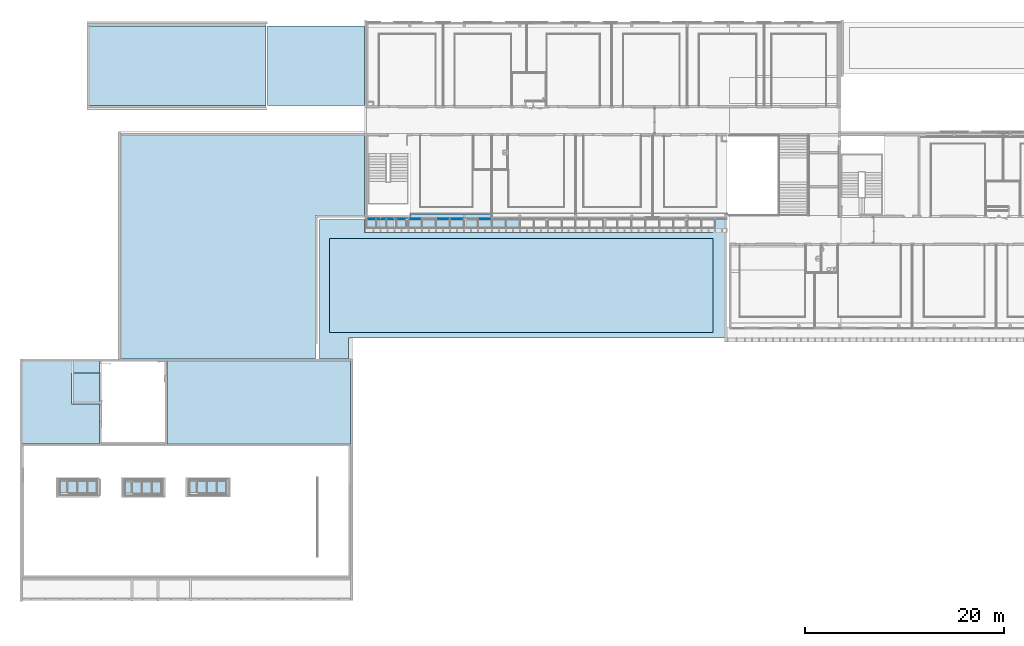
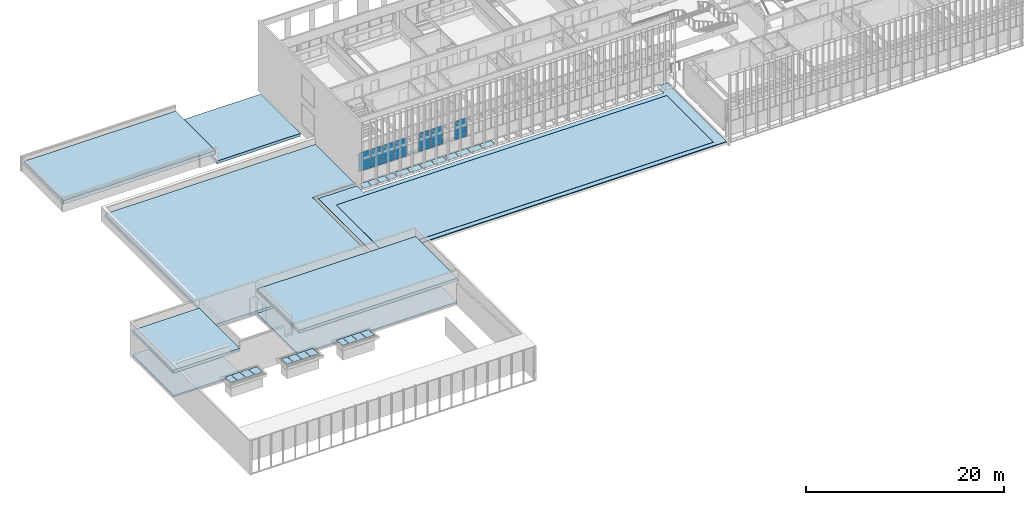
# One storey, part 29 of 106: 31 plates, 10 slabs, 1 opening, 12 elements without a shape of their own.
"""IFC2X3 building model written with IfcOpenShell, lengths in centimetres."""

from ifc_helpers import new_model, entity, si_unit, converted_unit, derived_unit, direction, frame, frame_2d, origin, origin_2d_with_axis, place, context, subcontext, project, spatial, polyline, rectangle, outline, extrude, source, transform, mapped, material, layer, layer_set, layer_usage, type_object, type_shapes, element, aggregate, save


model = new_model("IFC2X3")

# Units and contexts
model_context = context("Model", 3, precision=0.001, world=origin(), true_north=direction((6.12303176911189e-17, 1.0)))
body_context = subcontext(model_context, "Body", "Model", "MODEL_VIEW")
ifc_project = project(units=[si_unit("LENGTHUNIT", "METRE", prefix="CENTI"), si_unit("AREAUNIT", "SQUARE_METRE"), si_unit("VOLUMEUNIT", "CUBIC_METRE"), converted_unit("PLANEANGLEUNIT", "DEGREE", entity("IfcRatioMeasure", 0.0174532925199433), si_unit("PLANEANGLEUNIT", "RADIAN"), dimensions=[0, 0, 0, 0, 0, 0, 0]), si_unit("MASSUNIT", "GRAM", prefix="KILO"), derived_unit("MASSDENSITYUNIT", [(si_unit("MASSUNIT", "GRAM", prefix="KILO"), 1), (si_unit("LENGTHUNIT", "METRE"), -3)]), si_unit("TIMEUNIT", "SECOND"), si_unit("FREQUENCYUNIT", "HERTZ"), si_unit("THERMODYNAMICTEMPERATUREUNIT", "DEGREE_CELSIUS"), derived_unit("THERMALTRANSMITTANCEUNIT", [(si_unit("MASSUNIT", "GRAM", prefix="KILO"), 1), (si_unit("THERMODYNAMICTEMPERATUREUNIT", "KELVIN"), -1), (si_unit("TIMEUNIT", "SECOND"), -3)]), derived_unit("VOLUMETRICFLOWRATEUNIT", [(si_unit("LENGTHUNIT", "METRE"), 3), (si_unit("TIMEUNIT", "SECOND"), -1)]), si_unit("ELECTRICCURRENTUNIT", "AMPERE"), si_unit("ELECTRICVOLTAGEUNIT", "VOLT"), si_unit("POWERUNIT", "WATT"), si_unit("FORCEUNIT", "NEWTON", prefix="KILO"), si_unit("ILLUMINANCEUNIT", "LUX"), si_unit("LUMINOUSFLUXUNIT", "LUMEN"), si_unit("LUMINOUSINTENSITYUNIT", "CANDELA"), derived_unit("USERDEFINED", [(si_unit("MASSUNIT", "GRAM", prefix="KILO"), -1), (si_unit("LENGTHUNIT", "METRE"), -2), (si_unit("TIMEUNIT", "SECOND"), 3), (si_unit("LUMINOUSFLUXUNIT", "LUMEN"), 1)]), derived_unit("LINEARVELOCITYUNIT", [(si_unit("LENGTHUNIT", "METRE"), 1), (si_unit("TIMEUNIT", "SECOND"), -1)]), si_unit("PRESSUREUNIT", "PASCAL"), derived_unit("USERDEFINED", [(si_unit("LENGTHUNIT", "METRE"), -2), (si_unit("MASSUNIT", "GRAM", prefix="KILO"), 1), (si_unit("TIMEUNIT", "SECOND"), -2)])], contexts=[model_context])

# Site, building, storey
site_placement = place(None, frame((-2781.94577612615, 7442.24238424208, 0.0)))
site = spatial("IfcSite", under=ifc_project, at=site_placement, Name="Default", CompositionType="ELEMENT")
building_placement = place(site_placement, origin())
building = spatial("IfcBuilding", under=site, at=building_placement, CompositionType="ELEMENT")
storey_placement = place(building_placement, frame((0.0, 0.0, 422.0)))
storey = spatial("IfcBuildingStorey", under=building, at=storey_placement, Name="Toiture - Cuisine", CompositionType="ELEMENT", Elevation=421.999999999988)

# Roof, plates
curtain_wall_type_1 = type_object("IfcCurtainWallType", Name="Vitres inclinées:Toit en verre 1 m x 2 m", PredefinedType="NOTDEFINED")
roof_1_placement = place(building_placement, origin())
roof_1 = element("IfcRoof", 1, at=roof_1_placement, inside=storey, type_object=curtain_wall_type_1, Name="Vitres inclinées:Toit en verre 1 m x 2 m", ObjectType="Vitres inclinées:Toit en verre 1 m x 2 m", ShapeType="NOTDEFINED")
ifc_material_1 = material(Name="Verre")
ifc_layer_1 = layer(ifc_material_1, 4.0)
ifc_layer_set_1 = layer_set([ifc_layer_1], Name="Panneau système:Vitré")
ifc_layer_usage_1 = layer_usage(ifc_layer_set_1, "AXIS3", "POSITIVE", 0.0)
plate_type_1 = type_object("IfcPlateType", Name="Vitré", PredefinedType="CURTAIN_PANEL", material=ifc_layer_set_1)
shared_shape_1 = source(origin(), body_context, "Body", "SweptSolid", [
    extrude(rectangle(XDim=4.0, YDim=92.5000000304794, at=origin_2d_with_axis()), frame((0.0, 0.0, 0.0), z_axis=(0.0, 0.0, 1.0), x_axis=(0.0, 1.0, 0.0)), (0.0, 0.0, 1.0), 80.1235111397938),
])
type_shapes(plate_type_1, [shared_shape_1])
plate_1_placement = place(roof_1_placement, frame((-8358.24987765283, -2035.34756574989, 358.254827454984), z_axis=(0.0, 0.998629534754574, 0.0523359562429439), x_axis=(1.0, 0.0, 0.0)))
plate_1 = element("IfcPlate", 2, at=plate_1_placement, type_object=plate_type_1, material=ifc_layer_usage_1, Name="Panneau système:Vitré", ObjectType="Panneau système:Vitré", context=body_context, shape_type="MappedRepresentation", body=[
    mapped(shared_shape_1, transform((0.0, 0.0, 0.0), scale=1.0)),
])
ifc_layer_usage_2 = layer_usage(ifc_layer_set_1, "AXIS3", "POSITIVE", 0.0)
plate_type_2 = type_object("IfcPlateType", Name="Vitré", PredefinedType="CURTAIN_PANEL", material=ifc_layer_set_1)
shared_shape_2 = source(origin(), body_context, "Body", "SweptSolid", [
    extrude(rectangle(XDim=4.0, YDim=95.0000000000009, at=origin_2d_with_axis()), frame((0.0, 0.0, 0.0), z_axis=(0.0, 0.0, 1.0), x_axis=(0.0, 1.0, 0.0)), (0.0, 0.0, 1.0), 80.1235111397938),
])
type_shapes(plate_type_2, [shared_shape_2])
plate_2_placement = place(roof_1_placement, frame((-8259.49987763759, -2035.34756574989, 358.254827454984), z_axis=(0.0, 0.998629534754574, 0.0523359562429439), x_axis=(1.0, 0.0, 0.0)))
plate_2 = element("IfcPlate", 3, at=plate_2_placement, type_object=plate_type_2, material=ifc_layer_usage_2, Name="Panneau système:Vitré", ObjectType="Panneau système:Vitré", context=body_context, shape_type="MappedRepresentation", body=[
    mapped(shared_shape_2, transform((0.0, 0.0, 0.0), scale=1.0)),
])
ifc_layer_usage_3 = layer_usage(ifc_layer_set_1, "AXIS3", "POSITIVE", 0.0)
plate_3_placement = place(roof_1_placement, frame((-8159.49987763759, -2035.34756574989, 358.254827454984), z_axis=(0.0, 0.998629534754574, 0.0523359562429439), x_axis=(1.0, 0.0, 0.0)))
plate_3 = element("IfcPlate", 4, at=plate_3_placement, type_object=plate_type_2, material=ifc_layer_usage_3, Name="Panneau système:Vitré", ObjectType="Panneau système:Vitré", context=body_context, shape_type="MappedRepresentation", body=[
    mapped(shared_shape_2, transform((0.0, 0.0, 0.0), scale=1.0)),
])
ifc_layer_usage_4 = layer_usage(ifc_layer_set_1, "AXIS3", "POSITIVE", 0.0)
plate_4_placement = place(roof_1_placement, frame((-8059.49987763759, -2035.34756574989, 358.254827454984), z_axis=(0.0, 0.998629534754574, 0.0523359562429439), x_axis=(1.0, 0.0, 0.0)))
plate_4 = element("IfcPlate", 5, at=plate_4_placement, type_object=plate_type_2, material=ifc_layer_usage_4, Name="Panneau système:Vitré", ObjectType="Panneau système:Vitré", context=body_context, shape_type="MappedRepresentation", body=[
    mapped(shared_shape_2, transform((0.0, 0.0, 0.0), scale=1.0)),
])
ifc_layer_usage_5 = layer_usage(ifc_layer_set_1, "AXIS3", "POSITIVE", 0.0)
plate_type_3 = type_object("IfcPlateType", Name="Vitré", PredefinedType="CURTAIN_PANEL", material=ifc_layer_set_1)
shared_shape_3 = source(origin(), body_context, "Body", "SweptSolid", [
    extrude(rectangle(XDim=4.0, YDim=135.0, at=origin_2d_with_axis()), frame((0.0, 0.0, 0.0), z_axis=(0.0, 0.0, 1.0), x_axis=(0.0, 1.0, 0.0)), (0.0, 0.0, 1.0), 80.1235111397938),
])
type_shapes(plate_type_3, [shared_shape_3])
plate_5_placement = place(roof_1_placement, frame((-7919.49987763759, -2035.34756574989, 358.254827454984), z_axis=(0.0, 0.998629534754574, 0.0523359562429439), x_axis=(1.0, 0.0, 0.0)))
plate_5 = element("IfcPlate", 6, at=plate_5_placement, type_object=plate_type_3, material=ifc_layer_usage_5, Name="Panneau système:Vitré", ObjectType="Panneau système:Vitré", context=body_context, shape_type="MappedRepresentation", body=[
    mapped(shared_shape_3, transform((0.0, 0.0, 0.0), scale=1.0)),
])
ifc_layer_usage_6 = layer_usage(ifc_layer_set_1, "AXIS3", "POSITIVE", 0.0)
plate_6_placement = place(roof_1_placement, frame((-7779.4998776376, -2035.34756574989, 358.254827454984), z_axis=(0.0, 0.998629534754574, 0.0523359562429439), x_axis=(1.0, 0.0, 0.0)))
plate_6 = element("IfcPlate", 7, at=plate_6_placement, type_object=plate_type_3, material=ifc_layer_usage_6, Name="Panneau système:Vitré", ObjectType="Panneau système:Vitré", context=body_context, shape_type="MappedRepresentation", body=[
    mapped(shared_shape_3, transform((0.0, 0.0, 0.0), scale=1.0)),
])
ifc_layer_usage_7 = layer_usage(ifc_layer_set_1, "AXIS3", "POSITIVE", 0.0)
plate_7_placement = place(roof_1_placement, frame((-7639.49987763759, -2035.34756574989, 358.254827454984), z_axis=(0.0, 0.998629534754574, 0.0523359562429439), x_axis=(1.0, 0.0, 0.0)))
plate_7 = element("IfcPlate", 8, at=plate_7_placement, type_object=plate_type_3, material=ifc_layer_usage_7, Name="Panneau système:Vitré", ObjectType="Panneau système:Vitré", context=body_context, shape_type="MappedRepresentation", body=[
    mapped(shared_shape_3, transform((0.0, 0.0, 0.0), scale=1.0)),
])
ifc_layer_usage_8 = layer_usage(ifc_layer_set_1, "AXIS3", "POSITIVE", 0.0)
plate_8_placement = place(roof_1_placement, frame((-7499.49987763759, -2035.34756574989, 358.254827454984), z_axis=(0.0, 0.998629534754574, 0.0523359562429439), x_axis=(1.0, 0.0, 0.0)))
plate_8 = element("IfcPlate", 9, at=plate_8_placement, type_object=plate_type_3, material=ifc_layer_usage_8, Name="Panneau système:Vitré", ObjectType="Panneau système:Vitré", context=body_context, shape_type="MappedRepresentation", body=[
    mapped(shared_shape_3, transform((0.0, 0.0, 0.0), scale=1.0)),
])
ifc_layer_usage_9 = layer_usage(ifc_layer_set_1, "AXIS3", "POSITIVE", 0.0)
plate_9_placement = place(roof_1_placement, frame((-7219.49987763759, -2035.34756574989, 358.254827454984), z_axis=(0.0, 0.998629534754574, 0.0523359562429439), x_axis=(1.0, 0.0, 0.0)))
plate_9 = element("IfcPlate", 10, at=plate_9_placement, type_object=plate_type_3, material=ifc_layer_usage_9, Name="Panneau système:Vitré", ObjectType="Panneau système:Vitré", context=body_context, shape_type="MappedRepresentation", body=[
    mapped(shared_shape_3, transform((0.0, 0.0, 0.0), scale=1.0)),
])
ifc_layer_usage_10 = layer_usage(ifc_layer_set_1, "AXIS3", "POSITIVE", 0.0)
plate_10_placement = place(roof_1_placement, frame((-7079.49987763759, -2035.34756574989, 358.254827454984), z_axis=(0.0, 0.998629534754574, 0.0523359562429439), x_axis=(1.0, 0.0, 0.0)))
plate_10 = element("IfcPlate", 11, at=plate_10_placement, type_object=plate_type_3, material=ifc_layer_usage_10, Name="Panneau système:Vitré", ObjectType="Panneau système:Vitré", context=body_context, shape_type="MappedRepresentation", body=[
    mapped(shared_shape_3, transform((0.0, 0.0, 0.0), scale=1.0)),
])
ifc_layer_usage_11 = layer_usage(ifc_layer_set_1, "AXIS3", "POSITIVE", 0.0)
plate_11_placement = place(roof_1_placement, frame((-6939.49987763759, -2035.34756574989, 358.254827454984), z_axis=(0.0, 0.998629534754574, 0.0523359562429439), x_axis=(1.0, 0.0, 0.0)))
plate_11 = element("IfcPlate", 12, at=plate_11_placement, type_object=plate_type_3, material=ifc_layer_usage_11, Name="Panneau système:Vitré", ObjectType="Panneau système:Vitré", context=body_context, shape_type="MappedRepresentation", body=[
    mapped(shared_shape_3, transform((0.0, 0.0, 0.0), scale=1.0)),
])
ifc_layer_usage_12 = layer_usage(ifc_layer_set_1, "AXIS3", "POSITIVE", 0.0)
plate_type_4 = type_object("IfcPlateType", Name="Vitré", PredefinedType="CURTAIN_PANEL", material=ifc_layer_set_1)
shared_shape_4 = source(origin(), body_context, "Body", "SweptSolid", [
    extrude(rectangle(XDim=4.0, YDim=117.5, at=origin_2d_with_axis()), frame((0.0, 0.0, 0.0), z_axis=(0.0, 0.0, 1.0), x_axis=(0.0, 1.0, 0.0)), (0.0, 0.0, 1.0), 80.1235111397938),
])
type_shapes(plate_type_4, [shared_shape_4])
plate_12_placement = place(roof_1_placement, frame((-7350.74987763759, -2035.34756574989, 358.254827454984), z_axis=(0.0, 0.998629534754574, 0.0523359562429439), x_axis=(1.0, 0.0, 0.0)))
plate_12 = element("IfcPlate", 13, at=plate_12_placement, type_object=plate_type_4, material=ifc_layer_usage_12, Name="Panneau système:Vitré", ObjectType="Panneau système:Vitré", context=body_context, shape_type="MappedRepresentation", body=[
    mapped(shared_shape_4, transform((0.0, 0.0, 0.0), scale=1.0)),
])
aggregate(roof_1, [plate_1, plate_2, plate_3, plate_4, plate_5, plate_6, plate_7, plate_8, plate_12, plate_9, plate_10, plate_11])

# Curtain wall, plates
curtain_wall_type_2 = type_object("IfcCurtainWallType", Name="Mur-rideau:07 - mur rideau trame 140 cm", PredefinedType="NOTDEFINED")
curtain_wall_placement = place(building_placement, origin())
curtain_wall = element("IfcCurtainWall", 14, at=curtain_wall_placement, inside=storey, type_object=curtain_wall_type_2, Name="Mur-rideau:07 - mur rideau trame 140 cm", ObjectType="Mur-rideau:07 - mur rideau trame 140 cm")
ifc_layer_usage_13 = layer_usage(ifc_layer_set_1, "AXIS3", "POSITIVE", 0.0)
plate_type_5 = type_object("IfcPlateType", Name="Vitré", PredefinedType="CURTAIN_PANEL", material=ifc_layer_set_1)
shared_shape_5 = source(origin(), body_context, "Body", "SweptSolid", [
    extrude(rectangle(XDim=4.0, YDim=135.01250003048, at=origin_2d_with_axis()), frame((0.0, 0.0, 0.0), z_axis=(0.0, 0.0, 1.0), x_axis=(0.0, 1.0, 0.0)), (0.0, 0.0, 1.0), 229.2625),
])
type_shapes(plate_type_5, [shared_shape_5])
plate_13_placement = place(curtain_wall_placement, frame((-8337.87487765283, -1946.27903364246, 509.61875)))
plate_13 = element("IfcPlate", 15, at=plate_13_placement, type_object=plate_type_5, material=ifc_layer_usage_13, Name="Panneau système:Vitré", ObjectType="Panneau système:Vitré", context=body_context, shape_type="MappedRepresentation", body=[
    mapped(shared_shape_5, transform((0.0, 0.0, 0.0), scale=1.0)),
])
ifc_layer_usage_14 = layer_usage(ifc_layer_set_1, "AXIS3", "POSITIVE", 0.0)
plate_type_6 = type_object("IfcPlateType", Name="Vitré", PredefinedType="CURTAIN_PANEL", material=ifc_layer_set_1)
shared_shape_6 = source(origin(), body_context, "Body", "SweptSolid", [
    extrude(rectangle(XDim=4.0, YDim=138.262499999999, at=origin_2d_with_axis()), frame((0.0, 0.0, 0.0), z_axis=(0.0, 0.0, 1.0), x_axis=(0.0, 1.0, 0.0)), (0.0, 0.0, 1.0), 229.2625),
])
type_shapes(plate_type_6, [shared_shape_6])
plate_14_placement = place(curtain_wall_placement, frame((-8199.49987763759, -1946.27903364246, 509.61875)))
plate_14 = element("IfcPlate", 16, at=plate_14_placement, type_object=plate_type_6, material=ifc_layer_usage_14, Name="Panneau système:Vitré", ObjectType="Panneau système:Vitré", context=body_context, shape_type="MappedRepresentation", body=[
    mapped(shared_shape_6, transform((0.0, 0.0, 0.0), scale=1.0)),
])
ifc_layer_usage_15 = layer_usage(ifc_layer_set_1, "AXIS3", "POSITIVE", 0.0)
plate_15_placement = place(curtain_wall_placement, frame((-8059.49987763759, -1946.27903364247, 509.61875)))
plate_15 = element("IfcPlate", 17, at=plate_15_placement, type_object=plate_type_6, material=ifc_layer_usage_15, Name="Panneau système:Vitré", ObjectType="Panneau système:Vitré", context=body_context, shape_type="MappedRepresentation", body=[
    mapped(shared_shape_6, transform((0.0, 0.0, 0.0), scale=1.0)),
])
ifc_layer_usage_16 = layer_usage(ifc_layer_set_1, "AXIS3", "POSITIVE", 0.0)
plate_16_placement = place(curtain_wall_placement, frame((-7919.49987763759, -1946.27903364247, 509.61875)))
plate_16 = element("IfcPlate", 18, at=plate_16_placement, type_object=plate_type_6, material=ifc_layer_usage_16, Name="Panneau système:Vitré", ObjectType="Panneau système:Vitré", context=body_context, shape_type="MappedRepresentation", body=[
    mapped(shared_shape_6, transform((0.0, 0.0, 0.0), scale=1.0)),
])
ifc_layer_usage_17 = layer_usage(ifc_layer_set_1, "AXIS3", "POSITIVE", 0.0)
plate_17_placement = place(curtain_wall_placement, frame((-7639.49987763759, -1946.27903364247, 509.61875)))
plate_17 = element("IfcPlate", 19, at=plate_17_placement, type_object=plate_type_6, material=ifc_layer_usage_17, Name="Panneau système:Vitré", ObjectType="Panneau système:Vitré", context=body_context, shape_type="MappedRepresentation", body=[
    mapped(shared_shape_6, transform((0.0, 0.0, 0.0), scale=1.0)),
])
ifc_layer_usage_18 = layer_usage(ifc_layer_set_1, "AXIS3", "POSITIVE", 0.0)
plate_18_placement = place(curtain_wall_placement, frame((-7499.49987763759, -1946.27903364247, 509.61875)))
plate_18 = element("IfcPlate", 20, at=plate_18_placement, type_object=plate_type_6, material=ifc_layer_usage_18, Name="Panneau système:Vitré", ObjectType="Panneau système:Vitré", context=body_context, shape_type="MappedRepresentation", body=[
    mapped(shared_shape_6, transform((0.0, 0.0, 0.0), scale=1.0)),
])
ifc_layer_usage_19 = layer_usage(ifc_layer_set_1, "AXIS3", "POSITIVE", 0.0)
plate_19_placement = place(curtain_wall_placement, frame((-7219.49987763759, -1946.27903364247, 509.61875)))
plate_19 = element("IfcPlate", 21, at=plate_19_placement, type_object=plate_type_6, material=ifc_layer_usage_19, Name="Panneau système:Vitré", ObjectType="Panneau système:Vitré", context=body_context, shape_type="MappedRepresentation", body=[
    mapped(shared_shape_6, transform((0.0, 0.0, 0.0), scale=1.0)),
])
aggregate(curtain_wall, [plate_13, plate_14, plate_15, plate_16, plate_17, plate_18, plate_19])

# Roof, plate
roof_2_placement = place(building_placement, origin())
roof_2 = element("IfcRoof", 22, at=roof_2_placement, inside=storey, type_object=curtain_wall_type_1, Name="Vitres inclinées:Toit en verre 1 m x 2 m", ObjectType="Vitres inclinées:Toit en verre 1 m x 2 m", ShapeType="NOTDEFINED")
ifc_layer_usage_20 = layer_usage(ifc_layer_set_1, "AXIS3", "POSITIVE", 0.0)
plate_type_7 = type_object("IfcPlateType", Name="Vitré", PredefinedType="CURTAIN_PANEL", material=ifc_layer_set_1)
shared_shape_7 = source(origin(), body_context, "Body", "SweptSolid", [
    extrude(rectangle(XDim=4.0, YDim=92.5000000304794, at=origin_2d_with_axis()), frame((0.0, 0.0, 0.0), z_axis=(0.0, 0.0, 1.0), x_axis=(0.0, 1.0, 0.0)), (0.0, 0.0, 1.0), 124.496974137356),
])
type_shapes(plate_type_7, [shared_shape_7])
plate_20_placement = place(roof_2_placement, frame((-11160.600574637, -4576.23124691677, 650.874957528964), z_axis=(0.0, -0.996194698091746, 0.0871557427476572), x_axis=(-1.0, 0.0, 0.0)))
plate_20 = element("IfcPlate", 23, at=plate_20_placement, type_object=plate_type_7, material=ifc_layer_usage_20, Name="Panneau système:Vitré", ObjectType="Panneau système:Vitré", context=body_context, shape_type="MappedRepresentation", body=[
    mapped(shared_shape_7, transform((0.0, 0.0, 0.0), scale=1.0)),
])

roof_3_placement = place(building_placement, origin())
roof_3 = element("IfcRoof", 24, at=roof_3_placement, inside=storey, type_object=curtain_wall_type_1, Name="Vitres inclinées:Toit en verre 1 m x 2 m", ObjectType="Vitres inclinées:Toit en verre 1 m x 2 m", ShapeType="NOTDEFINED")
ifc_layer_usage_21 = layer_usage(ifc_layer_set_1, "AXIS3", "POSITIVE", 0.0)
plate_21_placement = place(roof_3_placement, frame((-10510.600574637, -4580.23124691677, 650.874957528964), z_axis=(0.0, -0.996194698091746, 0.0871557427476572), x_axis=(-1.0, 0.0, 0.0)))
plate_21 = element("IfcPlate", 25, at=plate_21_placement, type_object=plate_type_7, material=ifc_layer_usage_21, Name="Panneau système:Vitré", ObjectType="Panneau système:Vitré", context=body_context, shape_type="MappedRepresentation", body=[
    mapped(shared_shape_7, transform((0.0, 0.0, 0.0), scale=1.0)),
])

roof_4_placement = place(building_placement, origin())
roof_4 = element("IfcRoof", 26, at=roof_4_placement, inside=storey, type_object=curtain_wall_type_1, Name="Vitres inclinées:Toit en verre 1 m x 2 m", ObjectType="Vitres inclinées:Toit en verre 1 m x 2 m", ShapeType="NOTDEFINED")
ifc_layer_usage_22 = layer_usage(ifc_layer_set_1, "AXIS3", "POSITIVE", 0.0)
plate_22_placement = place(roof_4_placement, frame((-9860.60057463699, -4576.21195184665, 650.874957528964), z_axis=(0.0, -0.996194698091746, 0.0871557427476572), x_axis=(-1.0, 0.0, 0.0)))
plate_22 = element("IfcPlate", 27, at=plate_22_placement, type_object=plate_type_7, material=ifc_layer_usage_22, Name="Panneau système:Vitré", ObjectType="Panneau système:Vitré", context=body_context, shape_type="MappedRepresentation", body=[
    mapped(shared_shape_7, transform((0.0, 0.0, 0.0), scale=1.0)),
])

# Plate
ifc_layer_usage_23 = layer_usage(ifc_layer_set_1, "AXIS3", "POSITIVE", 0.0)
plate_type_8 = type_object("IfcPlateType", Name="Vitré", PredefinedType="CURTAIN_PANEL", material=ifc_layer_set_1)
shared_shape_8 = source(origin(), body_context, "Body", "SweptSolid", [
    extrude(rectangle(XDim=4.0, YDim=95.0000000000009, at=origin_2d_with_axis()), frame((0.0, 0.0, 0.0), z_axis=(0.0, 0.0, 1.0), x_axis=(0.0, 1.0, 0.0)), (0.0, 0.0, 1.0), 124.496974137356),
])
type_shapes(plate_type_8, [shared_shape_8])
plate_23_placement = place(roof_2_placement, frame((-11259.3505746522, -4576.23124691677, 650.874957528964), z_axis=(0.0, -0.996194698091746, 0.0871557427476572), x_axis=(-1.0, 0.0, 0.0)))
plate_23 = element("IfcPlate", 28, at=plate_23_placement, type_object=plate_type_8, material=ifc_layer_usage_23, Name="Panneau système:Vitré", ObjectType="Panneau système:Vitré", context=body_context, shape_type="MappedRepresentation", body=[
    mapped(shared_shape_8, transform((0.0, 0.0, 0.0), scale=1.0)),
])

ifc_layer_usage_24 = layer_usage(ifc_layer_set_1, "AXIS3", "POSITIVE", 0.0)
plate_24_placement = place(roof_2_placement, frame((-11359.3505746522, -4576.23124691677, 650.874957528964), z_axis=(0.0, -0.996194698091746, 0.0871557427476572), x_axis=(-1.0, 0.0, 0.0)))
plate_24 = element("IfcPlate", 29, at=plate_24_placement, type_object=plate_type_8, material=ifc_layer_usage_24, Name="Panneau système:Vitré", ObjectType="Panneau système:Vitré", context=body_context, shape_type="MappedRepresentation", body=[
    mapped(shared_shape_8, transform((0.0, 0.0, 0.0), scale=1.0)),
])

ifc_layer_usage_25 = layer_usage(ifc_layer_set_1, "AXIS3", "POSITIVE", 0.0)
plate_25_placement = place(roof_3_placement, frame((-10609.3505746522, -4580.23124691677, 650.874957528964), z_axis=(0.0, -0.996194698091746, 0.0871557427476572), x_axis=(-1.0, 0.0, 0.0)))
plate_25 = element("IfcPlate", 30, at=plate_25_placement, type_object=plate_type_8, material=ifc_layer_usage_25, Name="Panneau système:Vitré", ObjectType="Panneau système:Vitré", context=body_context, shape_type="MappedRepresentation", body=[
    mapped(shared_shape_8, transform((0.0, 0.0, 0.0), scale=1.0)),
])

ifc_layer_usage_26 = layer_usage(ifc_layer_set_1, "AXIS3", "POSITIVE", 0.0)
plate_26_placement = place(roof_3_placement, frame((-10709.3505746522, -4580.23124691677, 650.874957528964), z_axis=(0.0, -0.996194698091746, 0.0871557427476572), x_axis=(-1.0, 0.0, 0.0)))
plate_26 = element("IfcPlate", 31, at=plate_26_placement, type_object=plate_type_8, material=ifc_layer_usage_26, Name="Panneau système:Vitré", ObjectType="Panneau système:Vitré", context=body_context, shape_type="MappedRepresentation", body=[
    mapped(shared_shape_8, transform((0.0, 0.0, 0.0), scale=1.0)),
])

ifc_layer_usage_27 = layer_usage(ifc_layer_set_1, "AXIS3", "POSITIVE", 0.0)
plate_27_placement = place(roof_4_placement, frame((-9959.35057465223, -4576.21195184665, 650.874957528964), z_axis=(0.0, -0.996194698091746, 0.0871557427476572), x_axis=(-1.0, 0.0, 0.0)))
plate_27 = element("IfcPlate", 32, at=plate_27_placement, type_object=plate_type_8, material=ifc_layer_usage_27, Name="Panneau système:Vitré", ObjectType="Panneau système:Vitré", context=body_context, shape_type="MappedRepresentation", body=[
    mapped(shared_shape_8, transform((0.0, 0.0, 0.0), scale=1.0)),
])

ifc_layer_usage_28 = layer_usage(ifc_layer_set_1, "AXIS3", "POSITIVE", 0.0)
plate_28_placement = place(roof_4_placement, frame((-10059.3505746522, -4576.21195184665, 650.874957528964), z_axis=(0.0, -0.996194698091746, 0.0871557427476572), x_axis=(-1.0, 0.0, 0.0)))
plate_28 = element("IfcPlate", 33, at=plate_28_placement, type_object=plate_type_8, material=ifc_layer_usage_28, Name="Panneau système:Vitré", ObjectType="Panneau système:Vitré", context=body_context, shape_type="MappedRepresentation", body=[
    mapped(shared_shape_8, transform((0.0, 0.0, 0.0), scale=1.0)),
])

ifc_layer_usage_29 = layer_usage(ifc_layer_set_1, "AXIS3", "POSITIVE", 0.0)
plate_type_9 = type_object("IfcPlateType", Name="Vitré", PredefinedType="CURTAIN_PANEL", material=ifc_layer_set_1)
shared_shape_9 = source(origin(), body_context, "Body", "SweptSolid", [
    extrude(rectangle(XDim=4.0, YDim=69.7999999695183, at=origin_2d_with_axis()), frame((0.0, 0.0, 0.0), z_axis=(0.0, 0.0, 1.0), x_axis=(0.0, 1.0, 0.0)), (0.0, 0.0, 1.0), 124.496974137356),
])
type_shapes(plate_type_9, [shared_shape_9])
plate_29_placement = place(roof_2_placement, frame((-11446.750574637, -4576.23124691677, 650.874957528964), z_axis=(0.0, -0.996194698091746, 0.0871557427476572), x_axis=(-1.0, 0.0, 0.0)))
plate_29 = element("IfcPlate", 34, at=plate_29_placement, type_object=plate_type_9, material=ifc_layer_usage_29, Name="Panneau système:Vitré", ObjectType="Panneau système:Vitré", context=body_context, shape_type="MappedRepresentation", body=[
    mapped(shared_shape_9, transform((0.0, 0.0, 0.0), scale=1.0)),
])

aggregate(roof_2, [plate_20, plate_23, plate_24, plate_29])

ifc_layer_usage_30 = layer_usage(ifc_layer_set_1, "AXIS3", "POSITIVE", 0.0)
plate_30_placement = place(roof_3_placement, frame((-10796.750574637, -4580.23124691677, 650.874957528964), z_axis=(0.0, -0.996194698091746, 0.0871557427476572), x_axis=(-1.0, 0.0, 0.0)))
plate_30 = element("IfcPlate", 35, at=plate_30_placement, type_object=plate_type_9, material=ifc_layer_usage_30, Name="Panneau système:Vitré", ObjectType="Panneau système:Vitré", context=body_context, shape_type="MappedRepresentation", body=[
    mapped(shared_shape_9, transform((0.0, 0.0, 0.0), scale=1.0)),
])

aggregate(roof_3, [plate_21, plate_25, plate_26, plate_30])

ifc_layer_usage_31 = layer_usage(ifc_layer_set_1, "AXIS3", "POSITIVE", 0.0)
plate_31_placement = place(roof_4_placement, frame((-10146.750574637, -4576.21195184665, 650.874957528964), z_axis=(0.0, -0.996194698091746, 0.0871557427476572), x_axis=(-1.0, 0.0, 0.0)))
plate_31 = element("IfcPlate", 36, at=plate_31_placement, type_object=plate_type_9, material=ifc_layer_usage_31, Name="Panneau système:Vitré", ObjectType="Panneau système:Vitré", context=body_context, shape_type="MappedRepresentation", body=[
    mapped(shared_shape_9, transform((0.0, 0.0, 0.0), scale=1.0)),
])

aggregate(roof_4, [plate_22, plate_27, plate_28, plate_31])

# Slabs
ifc_material_2 = material(Name="Bois tablettes")
ifc_layer_2 = layer(ifc_material_2, 2.0)
ifc_layer_set_2 = layer_set([ifc_layer_2], Name="Sol:02 - Tablette bois 2cm")
ifc_layer_usage_32 = layer_usage(ifc_layer_set_2, "AXIS3", "POSITIVE", 0.0)
slab_type_1 = type_object("IfcSlabType", Name="Sol:02 - Tablette bois 2cm", PredefinedType="FLOOR", material=ifc_layer_set_2)
slab_1_placement = place(building_placement, frame((-7966.49987760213, -3030.3134995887, 510.0)))
element("IfcSlab", 37, at=slab_1_placement, inside=storey, type_object=slab_type_1, material=ifc_layer_usage_32, Name="Sol:02 - Tablette bois 2cm:9", ObjectType="Sol:02 - Tablette bois 2cm", PredefinedType="FLOOR", context=body_context, shape_type="SweptSolid", body=[
    extrude(rectangle(XDim=811.999999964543, YDim=34.9999999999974, at=frame_2d((3372.24999739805, 550.117232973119), x_axis=(-1.0, 0.0))), frame((3778.24999738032, 567.617232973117, 2.0), z_axis=(0.0, 0.0, -1.0), x_axis=(-1.0, 0.0, 0.0)), (0.0, 0.0, 1.0), 1.99999999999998),
])
ifc_material_3 = material(Name="Béton, coulé sur place")
ifc_layer_3 = layer(ifc_material_3, 1.0)
ifc_material_4 = material(Name="01 - Maçonnerie")
ifc_layer_4 = layer(ifc_material_4, 20.0)
ifc_layer_set_3 = layer_set([ifc_layer_3, ifc_layer_4], Name="Sol:02 - dalle béton 20cm + finition 1cm")
ifc_layer_usage_33 = layer_usage(ifc_layer_set_3, "AXIS3", "POSITIVE", 0.0)
slab_type_2 = type_object("IfcSlabType", Name="Sol:02 - dalle béton 20cm + finition 1cm", PredefinedType="FLOOR")
slab_2_placement = place(building_placement, frame((-11864.3505746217, -4205.50027342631, 313.0)))
element("IfcSlab", 38, at=slab_2_placement, inside=storey, type_object=slab_type_2, material=ifc_layer_usage_33, Name="Sol:02 - dalle béton 20cm + finition 1cm", ObjectType="Sol:02 - dalle béton 20cm + finition 1cm", PredefinedType="FLOOR", context=body_context, shape_type="SweptSolid", body=[
    extrude(outline(polyline([(870.213830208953, 416.489233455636), (870.213830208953, 296.591378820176), (1150.81383020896, 296.591378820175), (1150.81383020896, -11.7086211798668), (870.213830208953, -11.7086211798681), (870.213830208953, -416.489233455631), (1647.68159686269, -416.489233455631), (1647.68159686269, 416.489233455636), (870.213830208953, 416.489233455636)])), frame((1647.68159686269, 416.489233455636, 21.0), z_axis=(0.0, 0.0, -1.0), x_axis=(-1.0, 0.0, 0.0)), (0.0, 0.0, 1.0), 21.0),
])
slab_type_3 = type_object("IfcSlabType", Name="Sol:02 - dalle béton 20cm + finition 1cm", PredefinedType="FLOOR", material=ifc_layer_set_3)
slab_3_placement = place(building_placement, frame((-11864.3505746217, -4205.50027342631, 313.0)))
element("IfcSlab", 39, at=slab_3_placement, inside=storey, type_object=slab_type_3, material=ifc_layer_usage_33, Name="Sol:02 - dalle béton 20cm + finition 1cm:2", ObjectType="Sol:02 - dalle béton 20cm + finition 1cm", PredefinedType="FLOOR", context=body_context, shape_type="SweptSolid", body=[
    extrude(rectangle(XDim=832.978466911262, YDim=1842.97735720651, at=frame_2d((-726.192918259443, 0.0), x_axis=(0.0, -1.0))), frame((1647.68159686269, 416.489233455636, 21.0), z_axis=(0.0, 0.0, -1.0), x_axis=(-1.0, 0.0, 0.0)), (0.0, 0.0, 1.0), 21.0),
])

# Roof, slab
roof_5_placement = place(building_placement, frame((-11190.6616968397, -810.048500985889, 392.0)))
roof_5 = element("IfcRoof", 40, at=roof_5_placement, inside=storey, Name="Toit de base:03 - Dalle 30 cm + isolant", ObjectType="Toit de base:03 - Dalle 30 cm + isolant", ShapeType="NOTDEFINED")
ifc_material_5 = material(Name="00 - Isolant")
ifc_layer_5 = layer(ifc_material_5, 16.0)
ifc_layer_6 = layer(ifc_material_4, 30.0)
ifc_layer_set_4 = layer_set([ifc_layer_5, ifc_layer_6], Name="Toit de base:03 - Dalle 30 cm + isolant")
slab_4_placement = place(roof_5_placement, origin())
slab_4 = element("IfcSlab", 41, at=slab_4_placement, material=ifc_layer_set_4, Name="Toit de base:03 - Dalle 30 cm + isolant", ObjectType="Toit de base:03 - Dalle 30 cm + isolant", PredefinedType="ROOF", context=body_context, shape_type="SweptSolid", body=[
    extrude(rectangle(XDim=1771.1618191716, YDim=800.048500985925, at=frame_2d((-2.55795384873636e-12, -5.6843418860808e-14), x_axis=(1.0, 0.0))), frame((885.580909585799, 400.024250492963, 0.0)), (0.0, 0.0, 1.0), 46.0),
])
aggregate(roof_5, [slab_4])

roof_6_placement = place(building_placement, frame((-10881.6130476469, -3352.52180651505, 313.0)))
roof_6 = element("IfcRoof", 42, at=roof_6_placement, inside=storey, Name="Toit de base:03 - Dalle 20 cm + isolant", ObjectType="Toit de base:03 - Dalle 20 cm + isolant", ShapeType="NOTDEFINED")
ifc_layer_7 = layer(ifc_material_5, 16.0)
ifc_layer_8 = layer(ifc_material_4, 20.0)
ifc_layer_set_5 = layer_set([ifc_layer_7, ifc_layer_8], Name="Toit de base:03 - Dalle 20 cm + isolant")
slab_5_placement = place(roof_6_placement, origin())
slab_5 = element("IfcSlab", 43, at=slab_5_placement, material=ifc_layer_set_5, Name="Toit de base:03 - Dalle 20 cm + isolant", ObjectType="Toit de base:03 - Dalle 20 cm + isolant", PredefinedType="ROOF", context=body_context, shape_type="SweptSolid", body=[
    extrude(outline(polyline([(-1226.05658498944, 1121.26090330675), (-1226.05658498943, 321.181869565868), (-1226.05658498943, 301.181869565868), (-1226.05658498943, -1121.26090330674), (733.624282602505, -1121.26090330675), (733.624282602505, 301.181869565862), (733.624282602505, 321.181869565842), (1226.05658498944, 321.181869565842), (1226.05658498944, 1121.26090330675), (-1210.05658498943, 1121.26090330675), (-1226.05658498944, 1121.26090330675)])), frame((1226.05658498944, 1121.26090330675, 0.0)), (0.0, 0.0, 1.0), 36.0),
])
aggregate(roof_6, [slab_5])

roof_7_placement = place(building_placement, frame((-8780.43218005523, -3085.31349958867, 338.0)))
roof_7 = element("IfcRoof", 44, at=roof_7_placement, inside=storey, Name="Toit de base:03 - Végétalisation", ObjectType="Toit de base:03 - Végétalisation", ShapeType="NOTDEFINED")
ifc_material_6 = material(Name="Herbe")
ifc_layer_9 = layer(ifc_material_6, 12.0)
ifc_layer_set_6 = layer_set([ifc_layer_9], Name="Toit de base:03 - Végétalisation")
slab_6_placement = place(roof_7_placement, origin())
slab_6 = element("IfcSlab", 45, at=slab_6_placement, material=ifc_layer_set_6, Name="Toit de base:03 - Végétalisation", ObjectType="Toit de base:03 - Végétalisation", PredefinedType="ROOF", context=body_context, shape_type="SweptSolid", body=[
    extrude(rectangle(XDim=3846.93230241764, YDim=945.156932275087, at=frame_2d((4.54747350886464e-13, 0.0), x_axis=(1.0, 0.0))), frame((1923.46615120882, 472.578466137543, 0.0)), (0.0, 0.0, 1.0), 12.0),
])
aggregate(roof_7, [slab_6])

roof_8_placement = place(building_placement, frame((-9399.49987766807, -810.04850098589, 265.5)))
roof_8 = element("IfcRoof", 46, at=roof_8_placement, inside=storey, Name="Toit de base:03 - Dalle 20 cm + isolant", ObjectType="Toit de base:03 - Dalle 20 cm + isolant", ShapeType="NOTDEFINED")
slab_7_placement = place(roof_8_placement, origin())
slab_7 = element("IfcSlab", 47, at=slab_7_placement, material=ifc_layer_set_5, Name="Toit de base:03 - Dalle 20 cm + isolant", ObjectType="Toit de base:03 - Dalle 20 cm + isolant", PredefinedType="ROOF", context=body_context, shape_type="SweptSolid", body=[
    extrude(rectangle(XDim=969.999999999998, YDim=800.048500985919, at=frame_2d((0.0, 5.6843418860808e-14), x_axis=(1.0, 0.0))), frame((485.0, 400.024250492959, 0.0)), (0.0, 0.0, 1.0), 36.0),
])
aggregate(roof_8, [slab_7])

# Roof, slab, opening
roof_9_placement = place(building_placement, frame((0.0, 0.0, 422.0)))
roof_9 = element("IfcRoof", 48, at=roof_9_placement, inside=storey, Name="Toit de base:03 - gravillons", ObjectType="Toit de base:03 - gravillons", ShapeType="NOTDEFINED")
slab_8_placement = place(building_placement, frame((0.0, 0.0, 422.0)))
slab_8 = element("IfcSlab", 49, at=slab_8_placement, Name="Toit de base:03 - gravillons:1", ObjectType="Toit de base:03 - gravillons", PredefinedType="ROOF", context=body_context, shape_type="SweptSolid", body=[
    extrude(outline(polyline([(414.535447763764, 1300.31603889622), (544.535447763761, 1300.31603889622), (544.535447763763, 1752.74834128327), (-857.907325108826, 1752.74834128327), (-857.907325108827, 1459.8035421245), (-645.699018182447, 1459.8035421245), (-645.699018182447, -2317.18396116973), (544.535447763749, -2317.18396116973), (544.535447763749, -2195.68396113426), (414.535447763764, -2195.68396113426), (414.535447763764, 1300.31603889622)])), frame((-7129.18383877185, -2494.61448140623, -84.0), z_axis=(0.0, 0.0, 1.0), x_axis=(0.0, 1.0, 0.0)), (0.0, 0.0, 1.0), 10.0),
])
opening_placement = place(building_placement, frame((0.0, 0.0, 422.0)))
element("IfcOpeningElement", 50, at=opening_placement, cuts=slab_8, Name="Toit de base:03 - gravillons:1", ObjectType="Opening", context=body_context, shape_type="SweptSolid", body=[
    extrude(rectangle(XDim=945.156932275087, YDim=3846.93230241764, at=frame_2d((0.0, 4.54747350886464e-13), x_axis=(1.0, 0.0))), frame((-6856.96602884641, -2612.73503345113, -84.0), z_axis=(0.0, 0.0, 1.0), x_axis=(0.0, 1.0, 0.0)), (0.0, 0.0, 1.0), 10.0),
])
aggregate(roof_9, [slab_8])

# Roof, slab
roof_10_placement = place(building_placement, frame((-11864.3505746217, -4189.50027342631, 599.0)))
roof_10 = element("IfcRoof", 51, at=roof_10_placement, inside=storey, Name="Toit de base:03 - Dalle 20 cm + isolant", ObjectType="Toit de base:03 - Dalle 20 cm + isolant", ShapeType="NOTDEFINED")
slab_9_placement = place(roof_10_placement, origin())
slab_9 = element("IfcSlab", 52, at=slab_9_placement, material=ifc_layer_set_5, Name="Toit de base:03 - Dalle 20 cm + isolant", ObjectType="Toit de base:03 - Dalle 20 cm + isolant", PredefinedType="ROOF", context=body_context, shape_type="SweptSolid", body=[
    extrude(rectangle(XDim=777.467766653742, YDim=816.978466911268, at=frame_2d((0.0, 1.98951966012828e-13), x_axis=(-1.0, 0.0))), frame((388.733883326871, 408.489233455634, 0.0)), (0.0, 0.0, 1.0), 36.0),
])
aggregate(roof_10, [slab_9])

roof_11_placement = place(building_placement, frame((-10411.9647381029, -4215.50027342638, 599.0)))
roof_11 = element("IfcRoof", 53, at=roof_11_placement, inside=storey, Name="Toit de base:03 - Dalle 20 cm + isolant", ObjectType="Toit de base:03 - Dalle 20 cm + isolant", ShapeType="NOTDEFINED")
slab_10_placement = place(roof_11_placement, origin())
slab_10 = element("IfcSlab", 54, at=slab_10_placement, material=ifc_layer_set_5, Name="Toit de base:03 - Dalle 20 cm + isolant", ObjectType="Toit de base:03 - Dalle 20 cm + isolant", PredefinedType="ROOF", context=body_context, shape_type="SweptSolid", body=[
    extrude(rectangle(XDim=1842.97735720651, YDim=842.978466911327, at=frame_2d((8.5265128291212e-13, 0.0), x_axis=(-1.0, 0.0))), frame((921.488678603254, 421.489233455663, 0.0)), (0.0, 0.0, 1.0), 36.0),
])
aggregate(roof_11, [slab_10])

save(model, "model.ifc")
